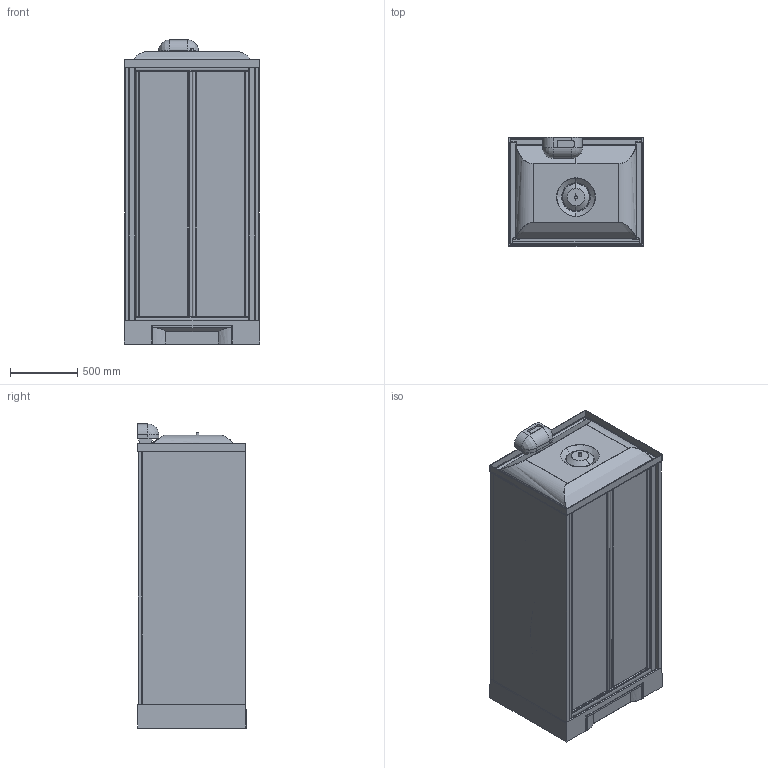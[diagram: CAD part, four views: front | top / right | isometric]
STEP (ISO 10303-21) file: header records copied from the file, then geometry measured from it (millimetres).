
FILE_DESCRIPTION(('STEP AP203'),'2;1');
FILE_NAME('NNH BI 100 M 19 N.stp','2015-09-04T15:02:48',(''),(''),'2014.1.117','THINKDESIGN','');
FILE_SCHEMA(('CONFIG_CONTROL_DESIGN'));
Bounding box: 1004.04 x 807.72 x 2255 mm (x, y, z)
Volume: 279152498.3 mm3; surface area: 21351061.4 mm2
Topology: 39 solids, 39 shells, 811 faces, 2014 edges, 1306 vertices
Faces by surface type: bspline 407, plane 295, cylinder 109
Entity records: 75291 total; most frequent: CARTESIAN_POINT 58955, ORIENTED_EDGE 3842, DIRECTION 2280, EDGE_CURVE 1921, VERTEX_POINT 1233, VECTOR 868, LINE 868, EDGE_LOOP 832
